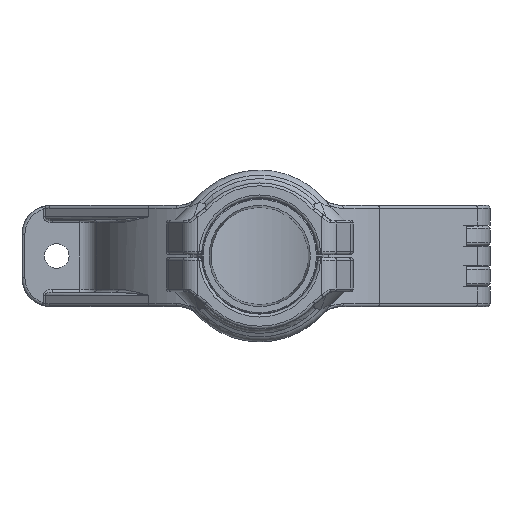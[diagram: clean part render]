
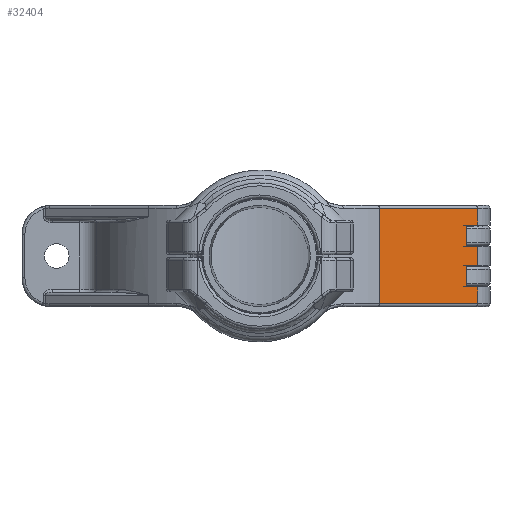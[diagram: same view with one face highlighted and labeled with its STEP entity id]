
A CAD part, front view. The second image highlights one B-rep face of the part: STEP entity #32404.
In plain terms, the highlighted planar face has unit normal (0.695, -0.719, 0).
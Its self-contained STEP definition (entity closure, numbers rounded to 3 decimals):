
#22845=DIRECTION('',(-0.719,-0.695,0.));
#22846=VECTOR('',#22845,47.511);
#22847=CARTESIAN_POINT('',(75.894,-10.14,16.623));
#22848=LINE('',#22847,#22846);
#23048=DIRECTION('',(0.719,0.695,0.));
#23049=VECTOR('',#23048,5.425);
#23050=CARTESIAN_POINT('',(71.994,-13.911,
10.729));
#23051=LINE('',#23050,#23049);
#23103=DIRECTION('',(0.,0.,1.));
#23104=VECTOR('',#23103,7.354);
#23105=CARTESIAN_POINT('',(71.994,-13.911,3.375));
#23106=LINE('',#23105,#23104);
#23134=DIRECTION('',(-0.719,-0.695,0.));
#23135=VECTOR('',#23134,5.425);
#23136=CARTESIAN_POINT('',(75.894,-10.14,3.375));
#23137=LINE('',#23136,#23135);
#23173=DIRECTION('',(0.,0.,1.));
#23174=VECTOR('',#23173,6.75);
#23175=CARTESIAN_POINT('',(75.894,-10.14,-3.375));
#23176=LINE('',#23175,#23174);
#23188=DIRECTION('',(0.719,0.695,0.));
#23189=VECTOR('',#23188,5.425);
#23190=CARTESIAN_POINT('',(71.994,-13.911,-3.375));
#23191=LINE('',#23190,#23189);
#23243=DIRECTION('',(0.,0.,1.));
#23244=VECTOR('',#23243,7.354);
#23245=CARTESIAN_POINT('',(71.994,-13.911,
-10.729));
#23246=LINE('',#23245,#23244);
#23274=DIRECTION('',(-0.719,-0.695,0.));
#23275=VECTOR('',#23274,5.425);
#23276=CARTESIAN_POINT('',(75.894,-10.14,
-10.729));
#23277=LINE('',#23276,#23275);
#23313=DIRECTION('',(0.,0.,1.));
#23314=VECTOR('',#23313,5.894);
#23315=CARTESIAN_POINT('',(75.894,-10.14,-16.623));
#23316=LINE('',#23315,#23314);
#23458=DIRECTION('',(0.,0.,-1.));
#23459=VECTOR('',#23458,33.246);
#23460=CARTESIAN_POINT('',(41.738,-43.166,16.623));
#23461=LINE('',#23460,#23459);
#23928=DIRECTION('',(0.719,0.695,0.));
#23929=VECTOR('',#23928,47.511);
#23930=CARTESIAN_POINT('',(41.738,-43.166,-16.623));
#23931=LINE('',#23930,#23929);
#25078=DIRECTION('',(0.,0.,1.));
#25079=VECTOR('',#25078,5.894);
#25080=CARTESIAN_POINT('',(75.894,-10.14,
10.729));
#25081=LINE('',#25080,#25079);
#29363=CARTESIAN_POINT('',(41.738,-43.166,16.623));
#29364=VERTEX_POINT('',#29363);
#29365=CARTESIAN_POINT('',(41.738,-43.166,-16.623));
#29366=VERTEX_POINT('',#29365);
#29410=CARTESIAN_POINT('',(75.894,-10.14,
-10.729));
#29412=VERTEX_POINT('',#29410);
#29413=CARTESIAN_POINT('',(71.994,-13.911,
-10.729));
#29414=VERTEX_POINT('',#29413);
#29417=CARTESIAN_POINT('',(75.894,-10.14,-16.623));
#29418=VERTEX_POINT('',#29417);
#29421=CARTESIAN_POINT('',(75.894,-10.14,16.623));
#29422=VERTEX_POINT('',#29421);
#29423=CARTESIAN_POINT('',(75.894,-10.14,
10.729));
#29424=VERTEX_POINT('',#29423);
#29425=CARTESIAN_POINT('',(71.994,-13.911,
10.729));
#29426=VERTEX_POINT('',#29425);
#29427=CARTESIAN_POINT('',(71.994,-13.911,3.375));
#29428=VERTEX_POINT('',#29427);
#29429=CARTESIAN_POINT('',(75.894,-10.14,3.375));
#29430=VERTEX_POINT('',#29429);
#29431=CARTESIAN_POINT('',(75.894,-10.14,-3.375));
#29432=VERTEX_POINT('',#29431);
#29433=CARTESIAN_POINT('',(71.994,-13.911,-3.375));
#29434=VERTEX_POINT('',#29433);
#32382=CARTESIAN_POINT('',(75.894,-10.14,17.631));
#32383=DIRECTION('',(0.695,-0.719,0.));
#32384=DIRECTION('',(0.719,0.695,0.));
#32385=AXIS2_PLACEMENT_3D('',#32382,#32383,#32384);
#32386=PLANE('',#32385);
#32388=ORIENTED_EDGE('',*,*,#32387,.F.);
#32389=ORIENTED_EDGE('',*,*,#32049,.F.);
#32391=ORIENTED_EDGE('',*,*,#32390,.F.);
#32392=ORIENTED_EDGE('',*,*,#32230,.F.);
#32393=ORIENTED_EDGE('',*,*,#32254,.F.);
#32394=ORIENTED_EDGE('',*,*,#32272,.F.);
#32395=ORIENTED_EDGE('',*,*,#32298,.F.);
#32396=ORIENTED_EDGE('',*,*,#32310,.F.);
#32397=ORIENTED_EDGE('',*,*,#32333,.F.);
#32398=ORIENTED_EDGE('',*,*,#32351,.F.);
#32399=ORIENTED_EDGE('',*,*,#32370,.F.);
#32401=ORIENTED_EDGE('',*,*,#32400,.F.);
#32402=EDGE_LOOP('',(#32388,#32389,#32391,#32392,#32393,#32394,#32395,#32396,
#32397,#32398,#32399,#32401));
#32403=FACE_OUTER_BOUND('',#32402,.F.);
#32049=EDGE_CURVE('',#29422,#29364,#22848,.T.);
#32230=EDGE_CURVE('',#29426,#29424,#23051,.T.);
#32254=EDGE_CURVE('',#29428,#29426,#23106,.T.);
#32272=EDGE_CURVE('',#29430,#29428,#23137,.T.);
#32298=EDGE_CURVE('',#29432,#29430,#23176,.T.);
#32310=EDGE_CURVE('',#29434,#29432,#23191,.T.);
#32333=EDGE_CURVE('',#29414,#29434,#23246,.T.);
#32351=EDGE_CURVE('',#29412,#29414,#23277,.T.);
#32370=EDGE_CURVE('',#29418,#29412,#23316,.T.);
#32387=EDGE_CURVE('',#29364,#29366,#23461,.T.);
#32390=EDGE_CURVE('',#29424,#29422,#25081,.T.);
#32400=EDGE_CURVE('',#29366,#29418,#23931,.T.);
#32404=ADVANCED_FACE('',(#32403),#32386,.T.);
